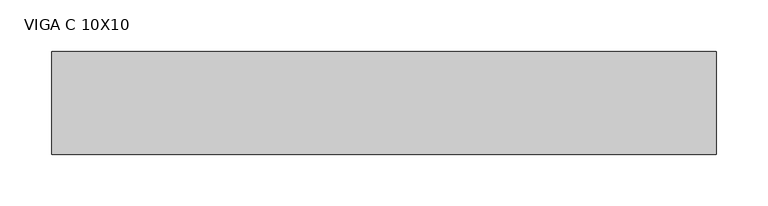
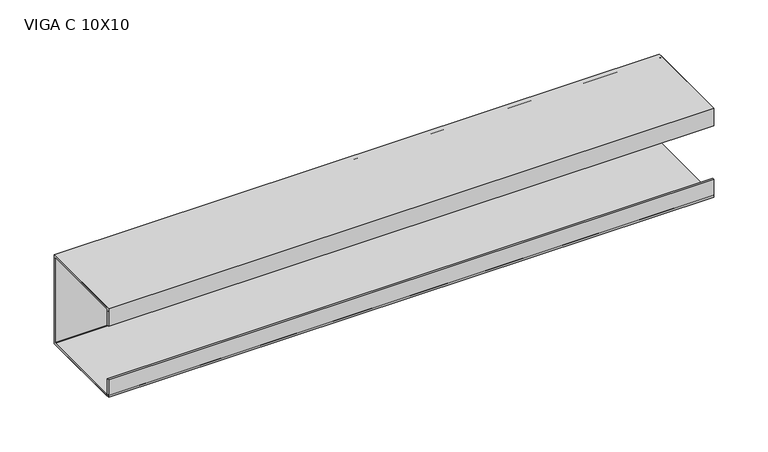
"""IFC4 building model written with IfcOpenShell, lengths in millimetres: beam geometry, VIGA PERFIL C AÇO : VIGA C 10X10."""

from ifc_helpers import new_model, si_unit, point, frame, frame_2d, origin, place, context, project, spatial, polyline, circle_curve, trimmed, segment, composite_curve, outline, extrude, source, transform, mapped, element, save


def viga_c_10x10_c08ebecf(model_context):
    return source(origin(), model_context, "Body", "SweptSolid", [
        extrude(outline(polyline([(9.2, -50.0), (-90.8, -50.0), (-90.8, -30.0), (-88.9, -30.0), (-88.9, -48.1), (7.3, -48.1), (7.3, 48.1), (-88.9, 48.1), (-88.9, 30.0), (-90.8, 30.0), (-90.8, 50.0), (9.2, 50.0), (9.2, -50.0)])), frame((-323.5, 0.0, 0.0), z_axis=(1.0, 0.0, 0.0), x_axis=(0.0, 1.0, 0.0)), (0.0, 0.0, 1.0), 644.0),
        extrude(outline(composite_curve([segment(trimmed(circle_curve(frame_2d((5.4, -46.2)), 3.8), [point((9.2, -46.2))], [point((5.4, -50.0))], False, "CARTESIAN"), True, "CONTINUOUS"), segment(polyline([(5.4, -50.0), (-87.0, -50.0)]), True, "CONTINUOUS"), segment(trimmed(circle_curve(frame_2d((-87.0, -46.2)), 3.8), [point((-87.0, -50.0))], [point((-90.8, -46.2))], False, "CARTESIAN"), True, "CONTINUOUS"), segment(polyline([(-90.8, -46.2), (-90.8, -30.0), (-88.9, -30.0), (-88.9, -46.2)]), True, "CONTINUOUS"), segment(trimmed(circle_curve(frame_2d((-87.0, -46.2)), 1.9), [point((-88.9, -46.2))], [point((-87.0, -48.1))], True, "CARTESIAN"), True, "CONTINUOUS"), segment(polyline([(-87.0, -48.1), (5.4, -48.1)]), True, "CONTINUOUS"), segment(trimmed(circle_curve(frame_2d((5.4, -46.2)), 1.9), [point((5.4, -48.1))], [point((7.3, -46.2))], True, "CARTESIAN"), True, "CONTINUOUS"), segment(polyline([(7.3, -46.2), (7.3, 46.2)]), True, "CONTINUOUS"), segment(trimmed(circle_curve(frame_2d((5.4, 46.2)), 1.9), [point((7.3, 46.2))], [point((5.4, 48.1))], True, "CARTESIAN"), True, "CONTINUOUS"), segment(polyline([(5.4, 48.1), (-87.0, 48.1)]), True, "CONTINUOUS"), segment(trimmed(circle_curve(frame_2d((-87.0, 46.2)), 1.9), [point((-87.0, 48.1))], [point((-88.9, 46.2))], True, "CARTESIAN"), True, "CONTINUOUS"), segment(polyline([(-88.9, 46.2), (-88.9, 30.0), (-90.8, 30.0), (-90.8, 46.2)]), True, "CONTINUOUS"), segment(trimmed(circle_curve(frame_2d((-87.0, 46.2)), 3.8), [point((-90.8, 46.2))], [point((-87.0, 50.0))], False, "CARTESIAN"), True, "CONTINUOUS"), segment(polyline([(-87.0, 50.0), (5.4, 50.0)]), True, "CONTINUOUS"), segment(trimmed(circle_curve(frame_2d((5.4, 46.2)), 3.8), [point((5.4, 50.0))], [point((9.2, 46.2))], False, "CARTESIAN"), True, "CONTINUOUS"), segment(polyline([(9.2, 46.2), (9.2, -46.2)]), True, "CONTINUOUS")], self_intersect=False)), frame((-323.5, 0.0, 0.0), z_axis=(1.0, 0.0, 0.0), x_axis=(0.0, 1.0, 0.0)), (0.0, 0.0, 1.0), 644.0),
    ])


if __name__ == "__main__":
    model = new_model("IFC4")
    model_context = context("Model", 3, world=origin())
    ifc_project = project(units=[si_unit("LENGTHUNIT", "METRE", prefix="MILLI")], contexts=[model_context])
    site = spatial("IfcSite", under=ifc_project)
    building = spatial("IfcBuilding", under=site)
    placement = place(None, origin())
    viga_c_10x10_shape = viga_c_10x10_c08ebecf(model_context)
    element("IfcBeam", 1, ObjectType="VIGA PERFIL C AÇO : VIGA C 10X10", at=placement, inside=building, context=model_context, shape_type="MappedRepresentation", body=[
        mapped(viga_c_10x10_shape, transform((0.0, 0.0, 0.0), x_axis=(1.0, 0.0, 0.0), y_axis=(0.0, 1.0, 0.0), z_axis=(0.0, 0.0, 1.0))),
    ])
    save(model, "model.ifc")
